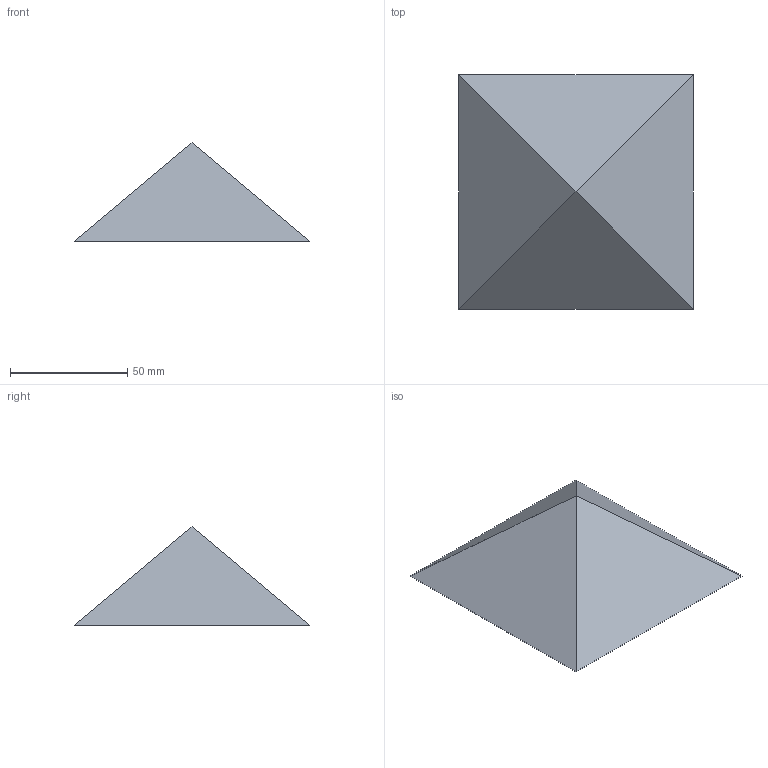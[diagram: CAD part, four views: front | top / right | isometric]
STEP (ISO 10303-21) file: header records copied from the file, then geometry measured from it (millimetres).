
FILE_DESCRIPTION(/* description */ ('STEP AP214','CAx-IF Rec.Pracs.---User Defined Attributes---1.5---2016-08-15'),/* implementation_level */ '2;1');
FILE_NAME(/* name */ '6ae31edff048ba5c842f5d10',/* time_stamp */ '2026-10-29T10:24:32Z',/* author */ (''),/* organization */ (''),/* preprocessor_version */ 'ST-DEVELOPER v20',/* originating_system */ 'ONSHAPE BY PTC INC, 1.222',/* authorisation */ ' ');
FILE_SCHEMA (('AUTOMOTIVE_DESIGN {1 0 10303 214 3 1 1}'));
Length unit declared in the file: metre
Products named in the file (1): roof_top
Bounding box: 100 x 100 x 41.88 mm (x, y, z)
Volume: 12976.7 mm3; surface area: 25896.6 mm2
Topology: 1 solids, 1 shells, 9 faces, 16 edges, 10 vertices
Faces by surface type: plane 9
Entity records: 244 total; most frequent: DIRECTION 36, CARTESIAN_POINT 36, ORIENTED_EDGE 32, EDGE_CURVE 16, LINE 16, VECTOR 16, VERTEX_POINT 10, EDGE_LOOP 10
